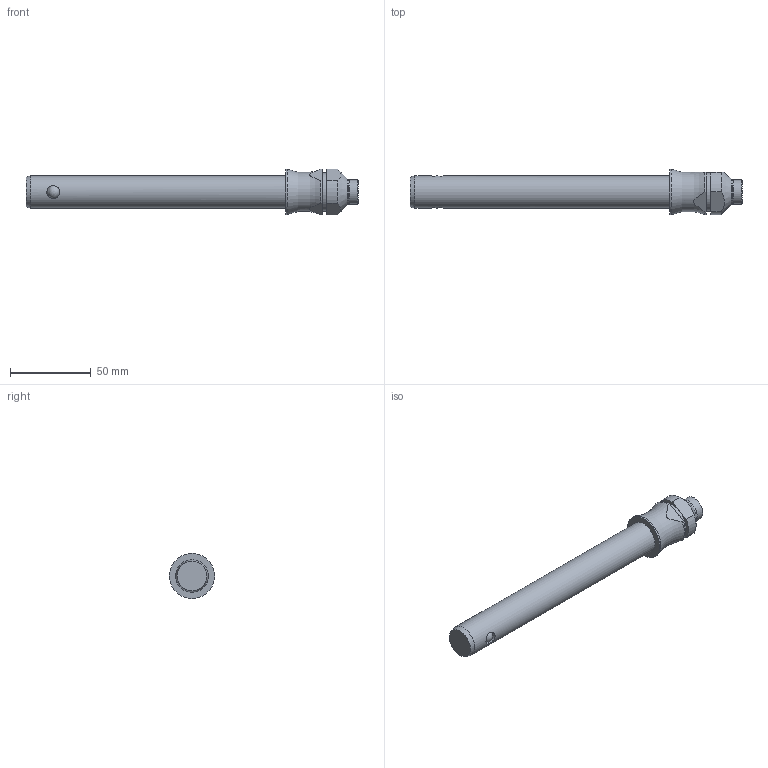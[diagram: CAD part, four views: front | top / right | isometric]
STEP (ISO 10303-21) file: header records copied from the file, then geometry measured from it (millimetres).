
FILE_DESCRIPTION( ( 'STEP AP203' ), '1' );
FILE_NAME( 'C:/Temp/Ganter_Step_05_03_2020/data/3_1/gn113_3/Stainless Steel-Ball lock pin GN 113.3-20-140 (activated).stp', '2020-03-12T08:19:07', ( 'License CC BY-ND 4.0' ), ( 'CADENAS' ), ' ', 'PARTsolutions', ' ' );
FILE_SCHEMA( ( 'CONFIG_CONTROL_DESIGN' ) );
Length unit declared in the file: millimetre
Products named in the file (1): _Stainless Steel-Ball lock pin GN 113.3-20-140 (activated)
Bounding box: 205.05 x 28 x 28 mm (x, y, z)
Volume: 69988.1 mm3; surface area: 14814.7 mm2
Topology: 1 solids, 1 shells, 31 faces, 74 edges, 46 vertices
Faces by surface type: cylinder 13, plane 11, cone 4, sphere 2, torus 1
Full cylindrical faces by diameter (mm): 8 x2, 15 x1, 16 x1, 20 x1, 24 x1, 28 x1
Entity records: 1054 total; most frequent: CARTESIAN_POINT 390, DIRECTION 134, ORIENTED_EDGE 104, AXIS2_PLACEMENT_3D 58, EDGE_CURVE 52, EDGE_LOOP 48, VERTEX_POINT 40, FACE_OUTER_BOUND 39
